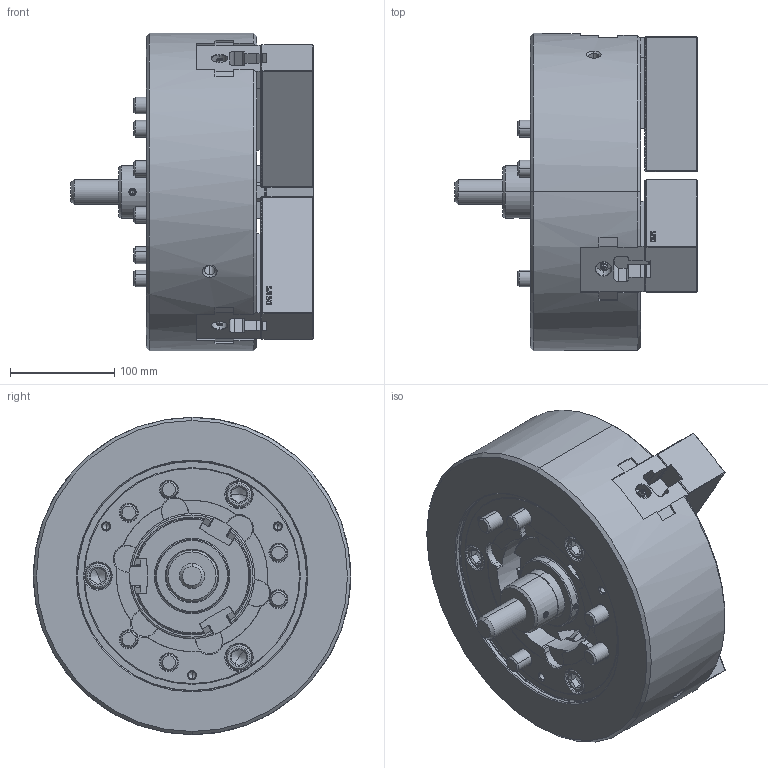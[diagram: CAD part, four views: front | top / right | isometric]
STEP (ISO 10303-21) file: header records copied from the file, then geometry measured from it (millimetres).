
FILE_DESCRIPTION (( 'STEP AP214' ), '1' );
FILE_NAME ('DT1_NL12_OUTSIDE_VIEW_HCL.STEP', '2026-03-23T05:42:00', ( '' ), ( '' ), 'SwSTEP 2.0', 'SolidWorks 2022', '' );
FILE_SCHEMA (( 'AUTOMOTIVE_DESIGN' ));
Length unit declared in the file: millimetre
Products named in the file (11): DT1_NL12_M16x100^DT1_NL12; DT1_NL12_OUTSIDE_VIEW_HCL; DT1_NL12_SOFTJAW^DT1_NL12; DT1_NL12_TNUT^DT1_NL12; DT1_NL12_COVER^DT1_NL12; Copy of 61P413921^DT1_NL12; DT1_NL12_DRAWSCREW^DT1_NL12; DT1_NL12_BASE^DT1_NL12; DT1_NL12_M5x12^DT1_NL12; DT1_NL12_M14x45^DT1_NL12; DT1_NL12_DN^DT1_NL12
Assembly tree (26 placements, depth 2):
  DT1_NL12_OUTSIDE_VIEW_HCL
    DT1_NL12_SOFTJAW^DT1_NL12  x3
    DT1_NL12_TNUT^DT1_NL12  x3
    DT1_NL12_COVER^DT1_NL12
    DT1_NL12_DRAWSCREW^DT1_NL12
    Copy of 61P413921^DT1_NL12
    DT1_NL12_M16x100^DT1_NL12  x6
    DT1_NL12_M14x45^DT1_NL12  x6
    DT1_NL12_M5x12^DT1_NL12  x3
    DT1_NL12_DN^DT1_NL12
    DT1_NL12_BASE^DT1_NL12
Bounding box: 232 x 304 x 304 mm (x, y, z)
Volume: 8099028.5 mm3; surface area: 674204.8 mm2
Topology: 26 solids, 32 shells, 5224 faces, 14818 edges, 9706 vertices
Faces by surface type: plane 3776, cylinder 713, cone 436, bspline 225, torus 68, sphere 6
Entity records: 123614 total; most frequent: CARTESIAN_POINT 32838, ORIENTED_EDGE 20344, DIRECTION 16581, EDGE_CURVE 10172, LINE 7567, VECTOR 7567, VERTEX_POINT 6682, AXIS2_PLACEMENT_3D 4507
